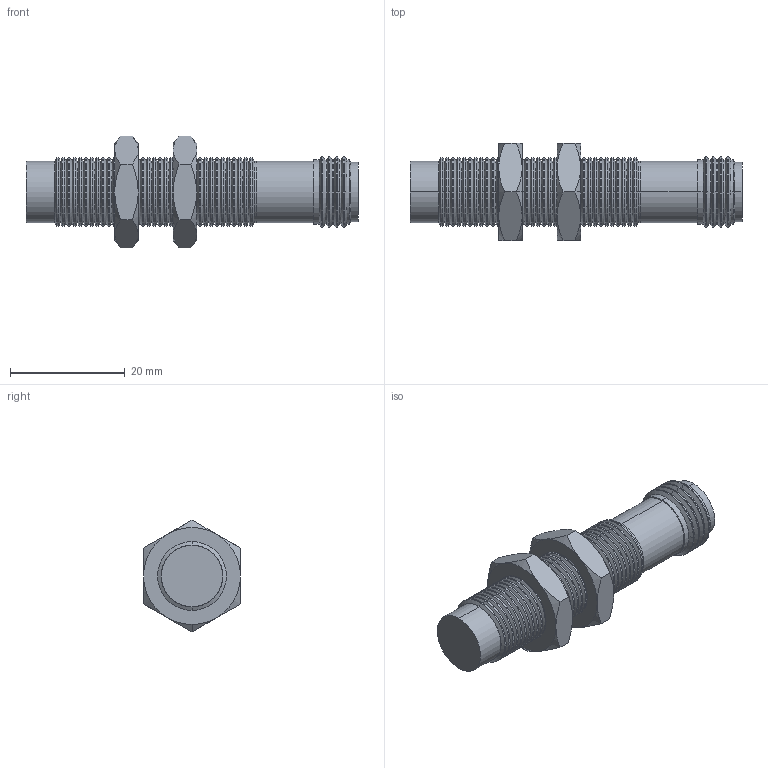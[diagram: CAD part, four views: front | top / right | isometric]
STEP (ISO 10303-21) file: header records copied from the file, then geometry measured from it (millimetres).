
FILE_DESCRIPTION (( 'STEP AP203' ), '1' );
FILE_NAME ('90-XXXX-007.STEP', '2015-10-28T13:09:22', ( 'Sam' ), ( 'Spade' ), 'SwSTEP 2.0', 'SolidWorks 2002296', '' );
FILE_SCHEMA (( 'CONFIG_CONTROL_DESIGN' ));
Length unit declared in the file: inch
Products named in the file (9): 90-XXXX-007; Imported64; Imported63; Imported62; Imported67; Imported66; Imported65; Imported60; Imported61
Assembly tree (8 placements, depth 2):
  90-XXXX-007
    Imported65
    Imported62
    Imported66
    Imported60
    Imported67
    Imported61
    Imported64
    Imported63
Bounding box: 57.76 x 16.87 x 19.47 mm (x, y, z)
Volume: 6517 mm3; surface area: 5421.4 mm2
Topology: 8 solids, 8 shells, 384 faces, 795 edges, 429 vertices
Faces by surface type: cone 226, cylinder 115, plane 37, bspline 6
Entity records: 11052 total; most frequent: DIRECTION 1919, CARTESIAN_POINT 1895, ORIENTED_EDGE 1578, EDGE_CURVE 789, AXIS2_PLACEMENT_3D 789, VERTEX_POINT 429, CIRCLE 400, EDGE_LOOP 396
